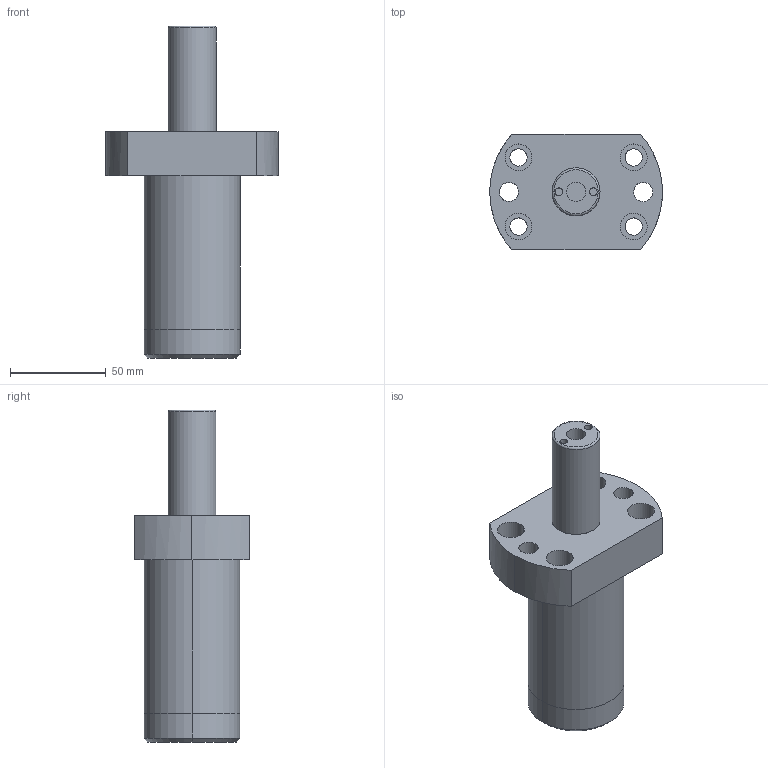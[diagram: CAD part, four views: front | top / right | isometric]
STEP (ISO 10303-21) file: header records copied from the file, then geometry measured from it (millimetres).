
FILE_DESCRIPTION(('FreeCAD Model'),'2;1');
FILE_NAME('Open CASCADE Shape Model','2024-11-13T09:25:08',('Author'),( ''),'Open CASCADE STEP processor 7.6','FreeCAD','Unknown');
FILE_SCHEMA(('AUTOMOTIVE_DESIGN { 1 0 10303 214 1 1 1 1 }'));
Length unit declared in the file: millimetre
Products named in the file (1): Cut002
Bounding box: 89.93 x 60 x 173 mm (x, y, z)
Volume: 312175.3 mm3; surface area: 40931.5 mm2
Topology: 2 solids, 2 shells, 49 faces, 105 edges, 69 vertices
Faces by surface type: cylinder 31, plane 15, cone 2, torus 1
Full cylindrical faces by diameter (mm): 4 x2, 10 x1, 25 x1
Entity records: 2112 total; most frequent: CARTESIAN_POINT 1042, ORIENTED_EDGE 210, DIRECTION 191, EDGE_CURVE 105, AXIS2_PLACEMENT_3D 76, FACE_BOUND 70, EDGE_LOOP 70, VERTEX_POINT 69
